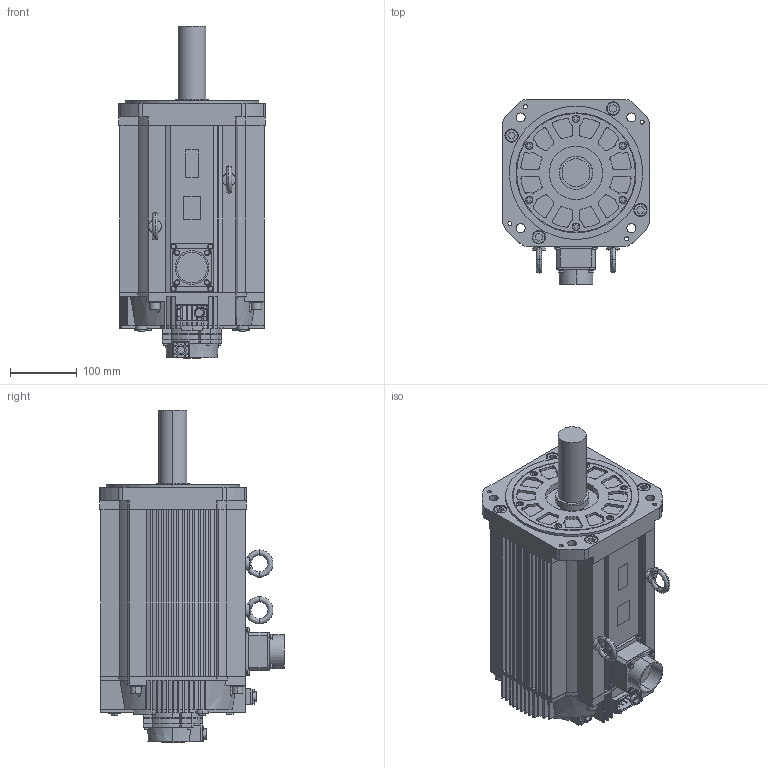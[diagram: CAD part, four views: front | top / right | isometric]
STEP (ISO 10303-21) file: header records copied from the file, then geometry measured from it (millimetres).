
FILE_DESCRIPTION (( 'STEP AP203' ), '1' );
FILE_NAME ('sgmgv_1a__a2c.STEP', '2011-06-22T02:26:11', ( '匠エンジニアリング山之内' ), ( 'TAKUMI-Engniaring' ), 'SwSTEP 2.0', 'SolidWorks 2006303', '' );
FILE_SCHEMA (( 'CONFIG_CONTROL_DESIGN' ));
Products named in the file (3): sgmgv_1a__a2c; sgmgv_1a__a2c_base; sgmgv_1a__a2c_eyebolt
Assembly tree (3 placements, depth 2):
  sgmgv_1a__a2c
    sgmgv_1a__a2c_eyebolt  x2
    sgmgv_1a__a2c_base
Bounding box: 220 x 277.08 x 498.1 mm (x, y, z)
Volume: 13643032 mm3; surface area: 693979.7 mm2
Topology: 3 solids, 3 shells, 1427 faces, 3718 edges, 2436 vertices
Faces by surface type: plane 854, cylinder 504, cone 59, torus 8, bspline 2
Entity records: 44180 total; most frequent: CARTESIAN_POINT 8144, DIRECTION 7550, ORIENTED_EDGE 7382, EDGE_CURVE 3691, AXIS2_PLACEMENT_3D 2549, VECTOR 2452, LINE 2452, VERTEX_POINT 2420
